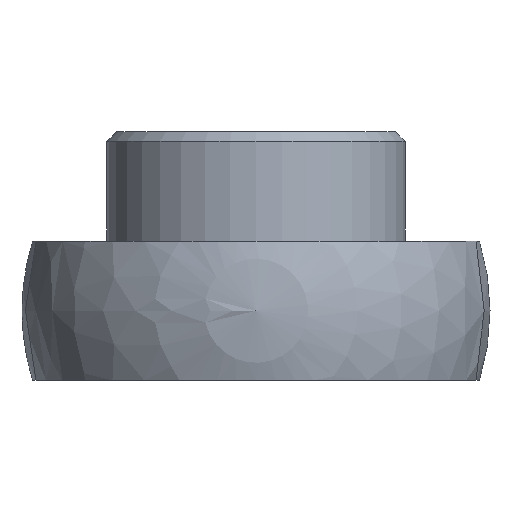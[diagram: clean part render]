
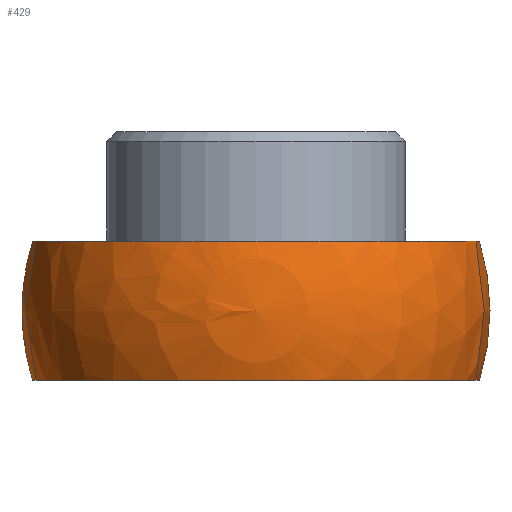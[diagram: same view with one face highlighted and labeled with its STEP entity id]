
A CAD part, front view. The second image highlights one B-rep face of the part: STEP entity #429.
In plain terms, the highlighted spherical face has radius 23.5 mm.
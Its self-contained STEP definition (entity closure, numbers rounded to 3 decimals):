
#200 = ORIENTED_EDGE ( 'NONE', *, *, #206, .F. ) ;
#201 = EDGE_CURVE ( 'NONE', #213, #212, #852, .T. ) ;
#206 = EDGE_CURVE ( 'NONE', #207, #214, #841, .T. ) ;
#207 = VERTEX_POINT ( 'NONE', #844 ) ;
#208 = ORIENTED_EDGE ( 'NONE', *, *, #209, .F. ) ;
#209 = EDGE_CURVE ( 'NONE', #213, #207, #823, .T. ) ;
#210 = ORIENTED_EDGE ( 'NONE', *, *, #211, .T. ) ;
#211 = EDGE_CURVE ( 'NONE', #212, #214, #846, .T. ) ;
#212 = VERTEX_POINT ( 'NONE', #839 ) ;
#213 = VERTEX_POINT ( 'NONE', #834 ) ;
#214 = VERTEX_POINT ( 'NONE', #838 ) ;
#428 = EDGE_LOOP ( 'NONE', ( #434, #210, #200, #208 ) ) ;
#429 = ADVANCED_FACE ( 'NONE', ( #1271 ), #1296, .T. ) ;
#434 = ORIENTED_EDGE ( 'NONE', *, *, #201, .T. ) ;
#821 = CARTESIAN_POINT ( 'NONE',  ( 0., 0., 7. ) ) ;
#823 = CIRCLE ( 'NONE', #845, 23.5 ) ;
#829 = AXIS2_PLACEMENT_3D ( 'NONE', #833, #889, #888 ) ;
#831 = DIRECTION ( 'NONE',  ( 0., 0., 1. ) ) ;
#832 = DIRECTION ( 'NONE',  ( 0., 1., 0. ) ) ;
#833 = CARTESIAN_POINT ( 'NONE',  ( 0., 0., 0. ) ) ;
#834 = CARTESIAN_POINT ( 'NONE',  ( -22.433, 0., -7. ) ) ;
#835 = DIRECTION ( 'NONE',  ( 1., 0., 0. ) ) ;
#836 = DIRECTION ( 'NONE',  ( 0., 0., 1. ) ) ;
#837 = AXIS2_PLACEMENT_3D ( 'NONE', #821, #836, #835 ) ;
#838 = CARTESIAN_POINT ( 'NONE',  ( 22.433, 0., 7. ) ) ;
#839 = CARTESIAN_POINT ( 'NONE',  ( 22.433, 0., -7. ) ) ;
#841 = CIRCLE ( 'NONE', #837, 22.433 ) ;
#842 = CARTESIAN_POINT ( 'NONE',  ( 0., 0., 0. ) ) ;
#844 = CARTESIAN_POINT ( 'NONE',  ( -22.433, 0., 7. ) ) ;
#845 = AXIS2_PLACEMENT_3D ( 'NONE', #842, #832, #831 ) ;
#846 = CIRCLE ( 'NONE', #829, 23.5 ) ;
#847 = DIRECTION ( 'NONE',  ( 1., 0., 0. ) ) ;
#848 = DIRECTION ( 'NONE',  ( 0., 0., 1. ) ) ;
#849 = CARTESIAN_POINT ( 'NONE',  ( 0., 0., -7. ) ) ;
#850 = AXIS2_PLACEMENT_3D ( 'NONE', #849, #848, #847 ) ;
#852 = CIRCLE ( 'NONE', #850, 22.433 ) ;
#888 = DIRECTION ( 'NONE',  ( 1., 0., 0. ) ) ;
#889 = DIRECTION ( 'NONE',  ( 0., -1., 0. ) ) ;
#1271 = FACE_OUTER_BOUND ( 'NONE', #428, .T. ) ;
#1279 = DIRECTION ( 'NONE',  ( 0., -1., 0. ) ) ;
#1280 = CARTESIAN_POINT ( 'NONE',  ( 0., 0., 0. ) ) ;
#1288 = AXIS2_PLACEMENT_3D ( 'NONE', #1280, #1279, #1317 ) ;
#1296 = SPHERICAL_SURFACE ( 'NONE', #1288, 23.5 ) ;
#1317 = DIRECTION ( 'NONE',  ( -1., 0., 0. ) ) ;
